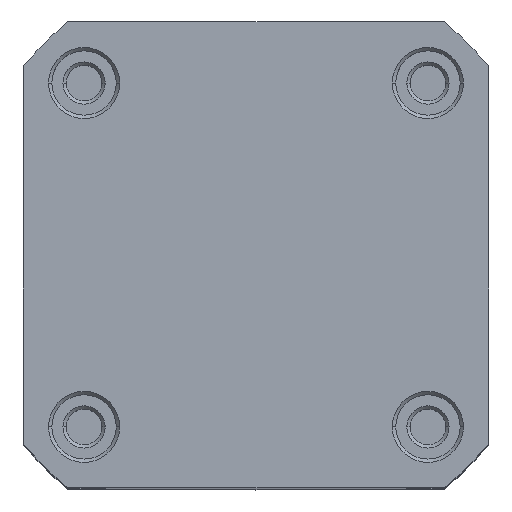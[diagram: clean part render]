
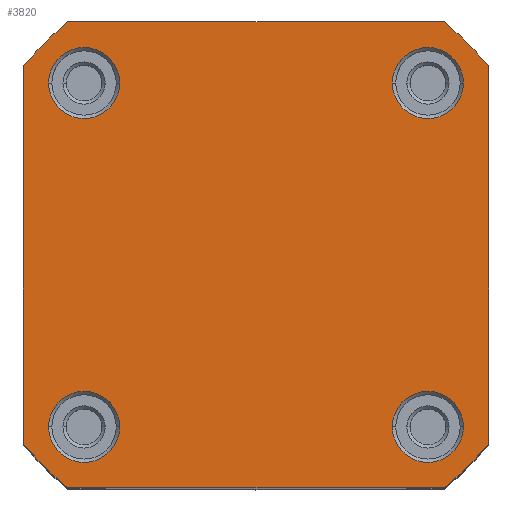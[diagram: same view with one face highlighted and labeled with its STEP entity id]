
A CAD part, top view. The second image highlights one B-rep face of the part: STEP entity #3820.
In plain terms, the highlighted planar face has unit normal (0, 0, 1).
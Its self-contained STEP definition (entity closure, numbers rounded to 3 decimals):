
#1 = VERTEX_POINT ( 'NONE', #687 ) ;
#43 = AXIS2_PLACEMENT_3D ( 'NONE', #71, #3745, #3449 ) ;
#53 = CARTESIAN_POINT ( 'NONE',  ( 0., 0., 110.3 ) ) ;
#67 = AXIS2_PLACEMENT_3D ( 'NONE', #2079, #4090, #1439 ) ;
#71 = CARTESIAN_POINT ( 'NONE',  ( 0., 0., 110.3 ) ) ;
#86 = VERTEX_POINT ( 'NONE', #1767 ) ;
#104 = CARTESIAN_POINT ( 'NONE',  ( -12.3, -15.5, 110.3 ) ) ;
#111 = FACE_BOUND ( 'NONE', #3366, .T. ) ;
#215 = CARTESIAN_POINT ( 'NONE',  ( 21., 16.971, 110.3 ) ) ;
#315 = LINE ( 'NONE', #2034, #1785 ) ;
#325 = DIRECTION ( 'NONE',  ( 1., 0., 0. ) ) ;
#355 = ORIENTED_EDGE ( 'NONE', *, *, #1124, .T. ) ;
#367 = VERTEX_POINT ( 'NONE', #2026 ) ;
#384 = VERTEX_POINT ( 'NONE', #719 ) ;
#455 = VERTEX_POINT ( 'NONE', #104 ) ;
#470 = AXIS2_PLACEMENT_3D ( 'NONE', #1518, #3839, #3813 ) ;
#480 = CARTESIAN_POINT ( 'NONE',  ( -16.971, -21., 110.3 ) ) ;
#487 = CARTESIAN_POINT ( 'NONE',  ( 16.971, 21., 110.3 ) ) ;
#514 = ORIENTED_EDGE ( 'NONE', *, *, #2163, .T. ) ;
#534 = CIRCLE ( 'NONE', #1256, 27. ) ;
#559 = DIRECTION ( 'NONE',  ( 1., 0., 0. ) ) ;
#687 = CARTESIAN_POINT ( 'NONE',  ( -21., 16.971, 110.3 ) ) ;
#719 = CARTESIAN_POINT ( 'NONE',  ( 21., -16.971, 110.3 ) ) ;
#762 = CARTESIAN_POINT ( 'NONE',  ( 0., 0., 110.3 ) ) ;
#763 = AXIS2_PLACEMENT_3D ( 'NONE', #3217, #1526, #1221 ) ;
#795 = ORIENTED_EDGE ( 'NONE', *, *, #2558, .T. ) ;
#838 = CARTESIAN_POINT ( 'NONE',  ( 12.3, -15.5, 110.3 ) ) ;
#866 = DIRECTION ( 'NONE',  ( 0., 0., -1. ) ) ;
#1018 = VERTEX_POINT ( 'NONE', #4159 ) ;
#1032 = CIRCLE ( 'NONE', #2599, 3.2 ) ;
#1057 = ORIENTED_EDGE ( 'NONE', *, *, #4237, .T. ) ;
#1098 = VERTEX_POINT ( 'NONE', #1482 ) ;
#1124 = EDGE_CURVE ( 'NONE', #3136, #3893, #1032, .T. ) ;
#1221 = DIRECTION ( 'NONE',  ( 1., 0., 0. ) ) ;
#1222 = CIRCLE ( 'NONE', #67, 3.2 ) ;
#1256 = AXIS2_PLACEMENT_3D ( 'NONE', #2534, #2657, #2087 ) ;
#1259 = ORIENTED_EDGE ( 'NONE', *, *, #3960, .T. ) ;
#1277 = FACE_BOUND ( 'NONE', #1648, .T. ) ;
#1329 = FACE_BOUND ( 'NONE', #3460, .T. ) ;
#1363 = DIRECTION ( 'NONE',  ( 0., -1., 0. ) ) ;
#1384 = CIRCLE ( 'NONE', #763, 3.2 ) ;
#1432 = EDGE_CURVE ( 'NONE', #1, #2140, #3266, .T. ) ;
#1439 = DIRECTION ( 'NONE',  ( 1., 0., 0. ) ) ;
#1482 = CARTESIAN_POINT ( 'NONE',  ( 18.7, -15.5, 110.3 ) ) ;
#1518 = CARTESIAN_POINT ( 'NONE',  ( 0., 0., 110.3 ) ) ;
#1526 = DIRECTION ( 'NONE',  ( 0., 0., -1. ) ) ;
#1555 = CARTESIAN_POINT ( 'NONE',  ( 15.5, -15.5, 110.3 ) ) ;
#1564 = DIRECTION ( 'NONE',  ( 0., 0., -1. ) ) ;
#1598 = AXIS2_PLACEMENT_3D ( 'NONE', #3272, #3608, #1954 ) ;
#1637 = AXIS2_PLACEMENT_3D ( 'NONE', #762, #1780, #1735 ) ;
#1641 = VERTEX_POINT ( 'NONE', #2498 ) ;
#1648 = EDGE_LOOP ( 'NONE', ( #355, #3052 ) ) ;
#1735 = DIRECTION ( 'NONE',  ( 1., 0., 0. ) ) ;
#1767 = CARTESIAN_POINT ( 'NONE',  ( -18.7, -15.5, 110.3 ) ) ;
#1780 = DIRECTION ( 'NONE',  ( 0., 0., 1. ) ) ;
#1782 = EDGE_CURVE ( 'NONE', #1641, #384, #4070, .T. ) ;
#1785 = VECTOR ( 'NONE', #2701, 1000. ) ;
#1832 = DIRECTION ( 'NONE',  ( 0., 0., -1. ) ) ;
#1857 = DIRECTION ( 'NONE',  ( 1., 0., 0. ) ) ;
#1866 = EDGE_CURVE ( 'NONE', #86, #455, #3511, .T. ) ;
#1954 = DIRECTION ( 'NONE',  ( 1., 0., 0. ) ) ;
#1964 = ORIENTED_EDGE ( 'NONE', *, *, #2909, .T. ) ;
#1975 = CARTESIAN_POINT ( 'NONE',  ( -16.971, -21., 110.3 ) ) ;
#1993 = DIRECTION ( 'NONE',  ( 1., 0., 0. ) ) ;
#2026 = CARTESIAN_POINT ( 'NONE',  ( -16.971, 21., 110.3 ) ) ;
#2034 = CARTESIAN_POINT ( 'NONE',  ( 21., -16.971, 110.3 ) ) ;
#2035 = VERTEX_POINT ( 'NONE', #487 ) ;
#2037 = ORIENTED_EDGE ( 'NONE', *, *, #1866, .T. ) ;
#2052 = EDGE_CURVE ( 'NONE', #455, #86, #1384, .T. ) ;
#2066 = PLANE ( 'NONE',  #43 ) ;
#2079 = CARTESIAN_POINT ( 'NONE',  ( -15.5, 15.5, 110.3 ) ) ;
#2087 = DIRECTION ( 'NONE',  ( 1., 0., 0. ) ) ;
#2090 = LINE ( 'NONE', #2156, #2626 ) ;
#2116 = DIRECTION ( 'NONE',  ( -1., 0., 0. ) ) ;
#2138 = CARTESIAN_POINT ( 'NONE',  ( -18.7, 15.5, 110.3 ) ) ;
#2140 = VERTEX_POINT ( 'NONE', #3201 ) ;
#2143 = FACE_BOUND ( 'NONE', #2738, .T. ) ;
#2156 = CARTESIAN_POINT ( 'NONE',  ( 16.971, 21., 110.3 ) ) ;
#2163 = EDGE_CURVE ( 'NONE', #1098, #4118, #2576, .T. ) ;
#2188 = CARTESIAN_POINT ( 'NONE',  ( 15.5, 15.5, 110.3 ) ) ;
#2225 = EDGE_CURVE ( 'NONE', #2927, #1641, #3871, .T. ) ;
#2270 = ORIENTED_EDGE ( 'NONE', *, *, #2902, .T. ) ;
#2318 = CARTESIAN_POINT ( 'NONE',  ( -12.3, 15.5, 110.3 ) ) ;
#2353 = ORIENTED_EDGE ( 'NONE', *, *, #1432, .T. ) ;
#2389 = DIRECTION ( 'NONE',  ( 0., 0., 1. ) ) ;
#2405 = CIRCLE ( 'NONE', #470, 27. ) ;
#2411 = AXIS2_PLACEMENT_3D ( 'NONE', #1555, #2908, #1857 ) ;
#2450 = CARTESIAN_POINT ( 'NONE',  ( -15.5, 15.5, 110.3 ) ) ;
#2460 = FACE_OUTER_BOUND ( 'NONE', #4058, .T. ) ;
#2498 = CARTESIAN_POINT ( 'NONE',  ( 16.971, -21., 110.3 ) ) ;
#2499 = DIRECTION ( 'NONE',  ( 1., 0., 0. ) ) ;
#2506 = CIRCLE ( 'NONE', #2853, 3.2 ) ;
#2534 = CARTESIAN_POINT ( 'NONE',  ( 0., 0., 110.3 ) ) ;
#2547 = AXIS2_PLACEMENT_3D ( 'NONE', #53, #2389, #325 ) ;
#2558 = EDGE_CURVE ( 'NONE', #2035, #367, #2090, .T. ) ;
#2576 = CIRCLE ( 'NONE', #3061, 3.2 ) ;
#2578 = ORIENTED_EDGE ( 'NONE', *, *, #3724, .T. ) ;
#2599 = AXIS2_PLACEMENT_3D ( 'NONE', #2450, #866, #3188 ) ;
#2626 = VECTOR ( 'NONE', #2116, 1000. ) ;
#2657 = DIRECTION ( 'NONE',  ( 0., 0., 1. ) ) ;
#2672 = CIRCLE ( 'NONE', #2411, 3.2 ) ;
#2701 = DIRECTION ( 'NONE',  ( 0., 1., 0. ) ) ;
#2738 = EDGE_LOOP ( 'NONE', ( #514, #4276 ) ) ;
#2743 = VERTEX_POINT ( 'NONE', #3446 ) ;
#2781 = CIRCLE ( 'NONE', #1637, 27. ) ;
#2853 = AXIS2_PLACEMENT_3D ( 'NONE', #2188, #1832, #2499 ) ;
#2902 = EDGE_CURVE ( 'NONE', #1018, #2743, #2506, .T. ) ;
#2908 = DIRECTION ( 'NONE',  ( 0., 0., -1. ) ) ;
#2909 = EDGE_CURVE ( 'NONE', #367, #1, #2405, .T. ) ;
#2927 = VERTEX_POINT ( 'NONE', #480 ) ;
#3032 = VERTEX_POINT ( 'NONE', #215 ) ;
#3052 = ORIENTED_EDGE ( 'NONE', *, *, #3760, .T. ) ;
#3061 = AXIS2_PLACEMENT_3D ( 'NONE', #4182, #3170, #4163 ) ;
#3118 = ORIENTED_EDGE ( 'NONE', *, *, #3814, .T. ) ;
#3136 = VERTEX_POINT ( 'NONE', #2318 ) ;
#3170 = DIRECTION ( 'NONE',  ( 0., 0., -1. ) ) ;
#3188 = DIRECTION ( 'NONE',  ( 1., 0., 0. ) ) ;
#3201 = CARTESIAN_POINT ( 'NONE',  ( -21., -16.971, 110.3 ) ) ;
#3217 = CARTESIAN_POINT ( 'NONE',  ( -15.5, -15.5, 110.3 ) ) ;
#3231 = ORIENTED_EDGE ( 'NONE', *, *, #2225, .T. ) ;
#3252 = CIRCLE ( 'NONE', #3571, 3.2 ) ;
#3266 = LINE ( 'NONE', #3988, #3635 ) ;
#3272 = CARTESIAN_POINT ( 'NONE',  ( -15.5, -15.5, 110.3 ) ) ;
#3366 = EDGE_LOOP ( 'NONE', ( #1057, #2270 ) ) ;
#3444 = EDGE_CURVE ( 'NONE', #4118, #1098, #2672, .T. ) ;
#3446 = CARTESIAN_POINT ( 'NONE',  ( 18.7, 15.5, 110.3 ) ) ;
#3449 = DIRECTION ( 'NONE',  ( 1., 0., 0. ) ) ;
#3460 = EDGE_LOOP ( 'NONE', ( #4029, #2037 ) ) ;
#3511 = CIRCLE ( 'NONE', #1598, 3.2 ) ;
#3560 = CARTESIAN_POINT ( 'NONE',  ( 15.5, 15.5, 110.3 ) ) ;
#3571 = AXIS2_PLACEMENT_3D ( 'NONE', #3560, #1564, #1993 ) ;
#3608 = DIRECTION ( 'NONE',  ( 0., 0., -1. ) ) ;
#3635 = VECTOR ( 'NONE', #1363, 1000. ) ;
#3724 = EDGE_CURVE ( 'NONE', #384, #3032, #315, .T. ) ;
#3745 = DIRECTION ( 'NONE',  ( 0., 0., 1. ) ) ;
#3760 = EDGE_CURVE ( 'NONE', #3893, #3136, #1222, .T. ) ;
#3779 = VECTOR ( 'NONE', #559, 1000. ) ;
#3813 = DIRECTION ( 'NONE',  ( 1., 0., 0. ) ) ;
#3814 = EDGE_CURVE ( 'NONE', #3032, #2035, #2781, .T. ) ;
#3820 = ADVANCED_FACE ( 'NONE', ( #2143, #1329, #1277, #111, #2460 ), #2066, .T. ) ;
#3839 = DIRECTION ( 'NONE',  ( 0., 0., 1. ) ) ;
#3871 = LINE ( 'NONE', #1975, #3779 ) ;
#3893 = VERTEX_POINT ( 'NONE', #2138 ) ;
#3960 = EDGE_CURVE ( 'NONE', #2140, #2927, #534, .T. ) ;
#3988 = CARTESIAN_POINT ( 'NONE',  ( -21., 16.971, 110.3 ) ) ;
#4029 = ORIENTED_EDGE ( 'NONE', *, *, #2052, .T. ) ;
#4031 = ORIENTED_EDGE ( 'NONE', *, *, #1782, .T. ) ;
#4058 = EDGE_LOOP ( 'NONE', ( #1964, #2353, #1259, #3231, #4031, #2578, #3118, #795 ) ) ;
#4070 = CIRCLE ( 'NONE', #2547, 27. ) ;
#4090 = DIRECTION ( 'NONE',  ( 0., 0., -1. ) ) ;
#4118 = VERTEX_POINT ( 'NONE', #838 ) ;
#4159 = CARTESIAN_POINT ( 'NONE',  ( 12.3, 15.5, 110.3 ) ) ;
#4163 = DIRECTION ( 'NONE',  ( 1., 0., 0. ) ) ;
#4182 = CARTESIAN_POINT ( 'NONE',  ( 15.5, -15.5, 110.3 ) ) ;
#4237 = EDGE_CURVE ( 'NONE', #2743, #1018, #3252, .T. ) ;
#4276 = ORIENTED_EDGE ( 'NONE', *, *, #3444, .T. ) ;
